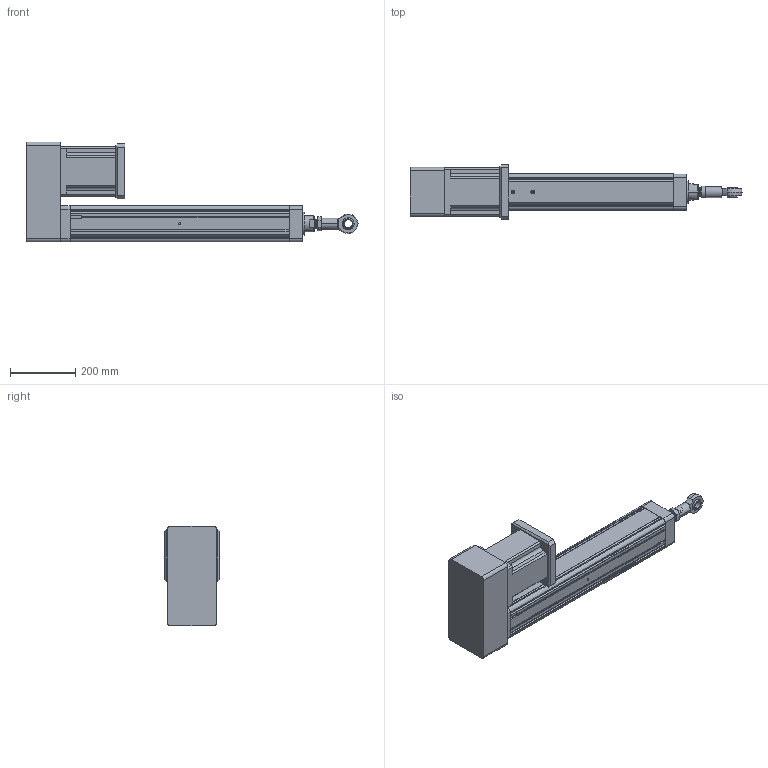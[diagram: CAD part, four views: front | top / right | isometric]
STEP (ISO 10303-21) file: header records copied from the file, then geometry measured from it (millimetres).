
FILE_DESCRIPTION (( 'STEP AP203' ), '1' );
FILE_NAME ('YRJ110-L500-H1K3.STEP', '2020-01-04T05:55:37', ( 'User' ), ( 'China' ), 'SwSTEP 2.0', 'SolidWorks 2016', '' );
FILE_SCHEMA (( 'CONFIG_CONTROL_DESIGN' ));
Length unit declared in the file: millimetre
Products named in the file (11): _BNC01-SI25T_K-R-002; 萇儂碟-110; BNC01-SI25T_K-R; 142熬厒儂; K3-110; K1-110; YRJ110-L500-H1K3; _BNC01-SI25T_K-R-001; 095-100俴最倰第; H1-110-1; H1-110-2
Assembly tree (10 placements, depth 4):
  YRJ110-L500-H1K3
    095-100俴最倰第
    H1-110-1
    H1-110-2
    萇儂碟-110
    142熬厒儂
    K3-110
      K1-110
      BNC01-SI25T_K-R
        _BNC01-SI25T_K-R-001
        _BNC01-SI25T_K-R-002
Bounding box: 1015 x 168 x 305.5 mm (x, y, z)
Volume: 12684896 mm3; surface area: 1095331.8 mm2
Topology: 8 solids, 8 shells, 401 faces, 1105 edges, 705 vertices
Faces by surface type: plane 175, cylinder 170, cone 42, bspline 14
Entity records: 22805 total; most frequent: CARTESIAN_POINT 11707, ORIENTED_EDGE 2138, DIRECTION 2004, EDGE_CURVE 1069, VERTEX_POINT 705, AXIS2_PLACEMENT_3D 682, LINE 640, VECTOR 640
